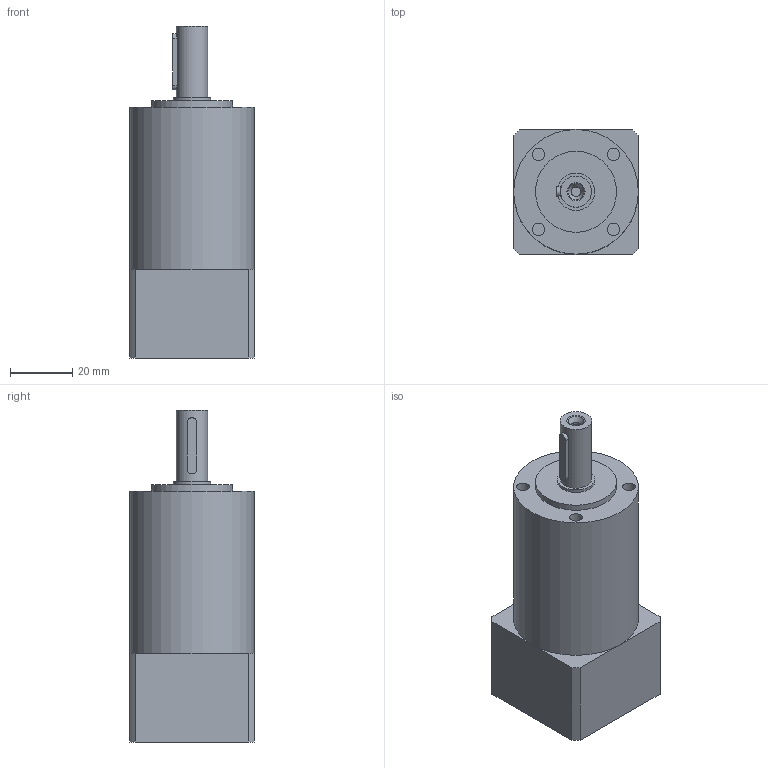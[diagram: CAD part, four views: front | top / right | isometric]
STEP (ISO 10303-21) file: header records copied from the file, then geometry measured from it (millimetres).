
FILE_DESCRIPTION((' Parasolid data model '),'2;1');
FILE_NAME('GSSL','1999-11-09T08:26:26+00:00',(' GSSL '),(' GSSL Pune '),'','GSSL Pune','Author');
FILE_SCHEMA(('CONFIG_CONTROL_DESIGN'));
Length unit declared in the file: millimetre
Bounding box: 40 x 40 x 106.5 mm (x, y, z)
Volume: 109691.9 mm3; surface area: 16855.5 mm2
Topology: 1 solids, 1 shells, 52 faces, 101 edges, 65 vertices
Faces by surface type: plane 27, cylinder 22, cone 3
Full cylindrical faces by diameter (mm): 3 x1, 3.183 x1, 4 x8, 8 x1, 10 x1, 12 x1, 26 x1, 30 x1, 40 x1
Entity records: 1364 total; most frequent: CARTESIAN_POINT 329, DIRECTION 200, ORIENTED_EDGE 154, AXIS2_PLACEMENT_3D 88, EDGE_LOOP 86, EDGE_CURVE 77, VERTEX_POINT 61, ADVANCED_FACE 52
